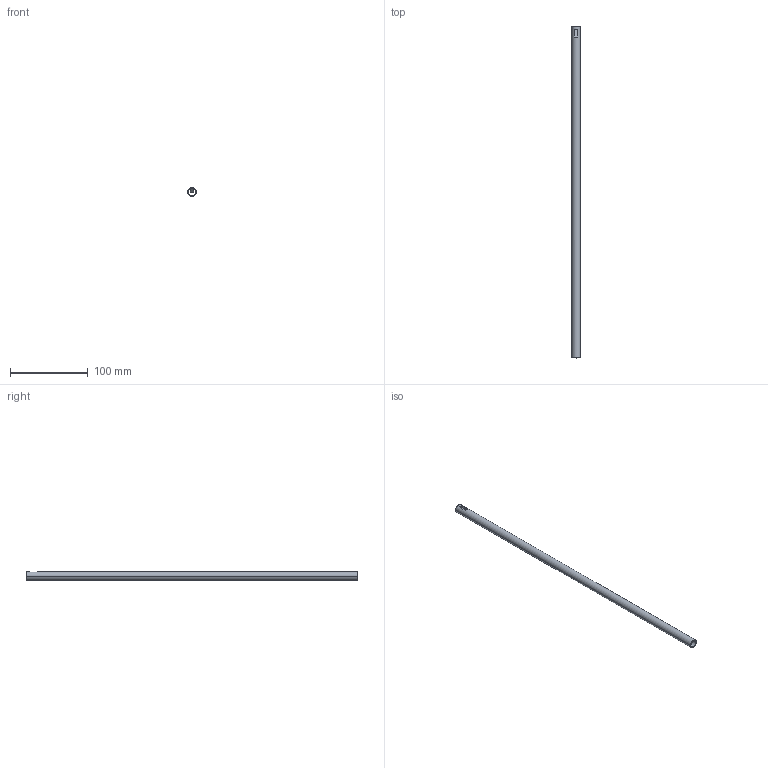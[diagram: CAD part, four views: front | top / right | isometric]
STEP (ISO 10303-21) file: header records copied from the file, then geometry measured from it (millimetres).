
FILE_DESCRIPTION (( 'STEP AP214' ), '1' );
FILE_NAME ('Relingsrohr_2S-Rundrel_P760604300_450.step', '2010-09-07T12:59:22', ( 'grass' ), ( '' ), 'SwSTEP 2.0', 'SolidWorks 2010', '' );
FILE_SCHEMA (( 'AUTOMOTIVE_DESIGN' ));
Length unit declared in the file: millimetre
Products named in the file (1): Relingsrohr_2S-Rundrel_P760604300_450
Bounding box: 11 x 426 x 11 mm (x, y, z)
Volume: 13380.9 mm3; surface area: 26869.7 mm2
Topology: 1 solids, 1 shells, 14 faces, 34 edges, 22 vertices
Faces by surface type: plane 10, cylinder 4
Entity records: 476 total; most frequent: CARTESIAN_POINT 77, DIRECTION 72, ORIENTED_EDGE 68, EDGE_CURVE 34, AXIS2_PLACEMENT_3D 25, LINE 22, VECTOR 22, VERTEX_POINT 22
